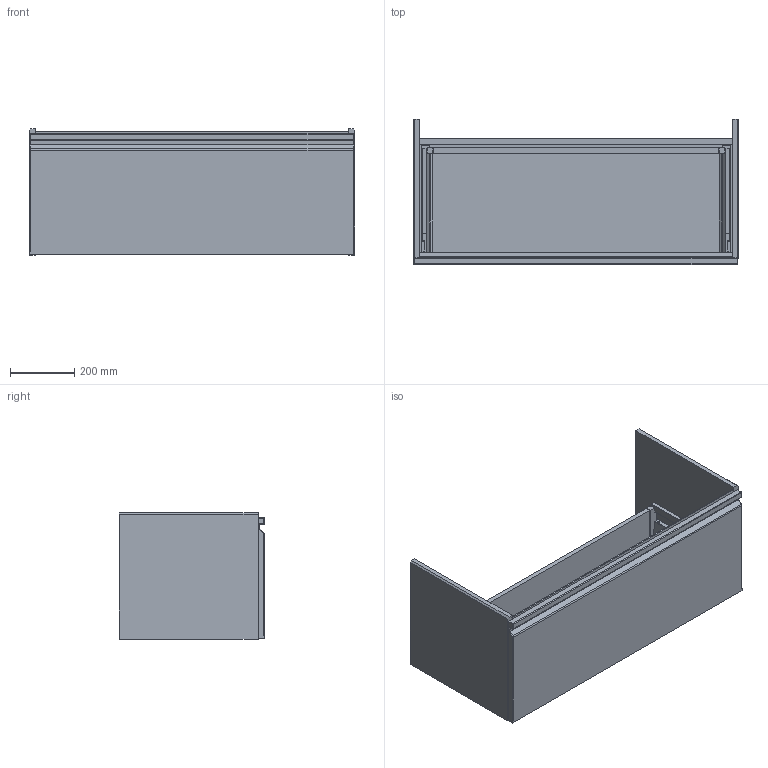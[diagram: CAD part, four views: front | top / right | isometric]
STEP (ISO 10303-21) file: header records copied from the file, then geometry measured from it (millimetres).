
FILE_DESCRIPTION(/* description */ (''),/* implementation_level */ '2;1');
FILE_NAME(/* name */ '3D628F~1',/* time_stamp */ '2018-05-14T09:20:30+02:00',/* author */ (''),/* organization */ (''),/* preprocessor_version */ 'ST-DEVELOPER v15',/* originating_system */ '',/* authorisation */ '');
FILE_SCHEMA (('AUTOMOTIVE_DESIGN'));
Length unit declared in the file: millimetre
Products named in the file (18): Document; Parte140; Parte138; Parte132; Parte126; Parte124; Parte112; Parte110; Parte108; Parte106; Parte104; Parte94; Parte92; Parte90; Parte88; Parte86; Parte76; Parte74
Assembly tree (17 placements, depth 2):
  Document
    Parte140
    Parte138
    Parte132
    Parte126
    Parte124
    Parte112
    Parte110
    Parte108
    Parte106
    Parte104
    Parte94
    Parte92
    Parte90
    Parte88
    Parte86
    Parte76
    Parte74
Bounding box: 1010 x 450 x 392 mm (x, y, z)
Volume: 29603208.2 mm3; surface area: 3873527.8 mm2
Topology: 17 solids, 17 shells, 533 faces, 1447 edges, 970 vertices
Faces by surface type: plane 360, bspline 173
Entity records: 18915 total; most frequent: CARTESIAN_POINT 9036, ORIENTED_EDGE 2886, EDGE_CURVE 1443, B_SPLINE_CURVE_WITH_KNOTS 1067, VERTEX_POINT 970, EDGE_LOOP 599, ADVANCED_FACE 533, FACE_OUTER_BOUND 533
